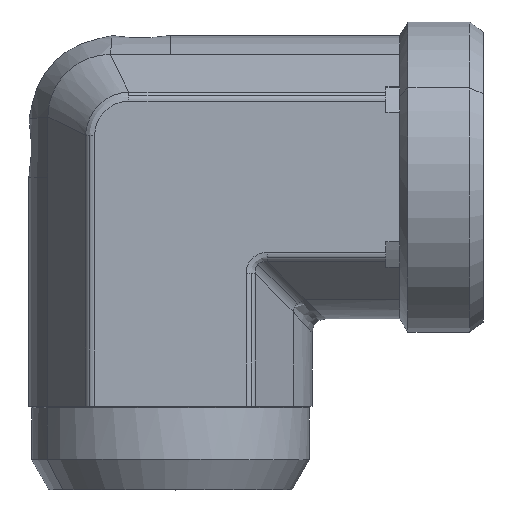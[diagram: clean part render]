
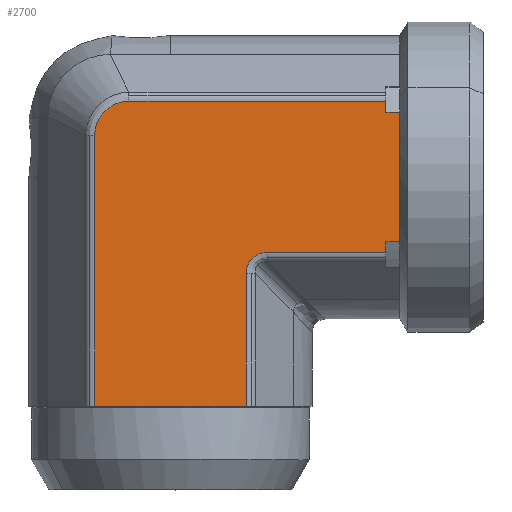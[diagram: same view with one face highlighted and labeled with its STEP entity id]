
A CAD part, top view. The second image highlights one B-rep face of the part: STEP entity #2700.
In plain terms, the highlighted planar face has unit normal (0, 0, 1) as drawn and (0, -1, 0) by its records, which use the part's own axes.
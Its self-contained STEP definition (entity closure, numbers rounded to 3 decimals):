
#361=CARTESIAN_POINT('',(9.429,-20.375,10.897));
#362=VERTEX_POINT('',#361);
#370=CARTESIAN_POINT('',(28.5,-20.375,10.897));
#371=VERTEX_POINT('',#370);
#372=CARTESIAN_POINT('',(9.429,-20.375,10.897));
#373=DIRECTION('',(1.0,0.0,0.0));
#374=VECTOR('',#373,19.071);
#375=LINE('',#372,#374);
#376=EDGE_CURVE('',#362,#371,#375,.T.);
#485=CARTESIAN_POINT('',(-15.397,-20.375,-5.976));
#486=VERTEX_POINT('',#485);
#494=CARTESIAN_POINT('',(-15.397,-20.375,31.));
#495=VERTEX_POINT('',#494);
#496=CARTESIAN_POINT('',(-15.397,-20.375,-5.976));
#497=DIRECTION('',(0.0,0.0,1.0));
#498=VECTOR('',#497,36.976);
#499=LINE('',#496,#498);
#500=EDGE_CURVE('',#486,#495,#499,.T.);
#735=CARTESIAN_POINT('',(-4.5,-20.375,33.0));
#736=VERTEX_POINT('',#735);
#1657=CARTESIAN_POINT('',(28.5,-20.375,-10.897));
#1658=VERTEX_POINT('',#1657);
#1659=CARTESIAN_POINT('',(28.5,-20.375,-10.897));
#1660=DIRECTION('',(0.0,0.0,1.0));
#1661=VECTOR('',#1660,21.795);
#1662=LINE('',#1659,#1661);
#1663=EDGE_CURVE('',#1658,#371,#1662,.T.);
#2208=CARTESIAN_POINT('',(6.397,-20.375,31.));
#2209=VERTEX_POINT('',#2208);
#2210=CARTESIAN_POINT('',(4.831,-20.375,31.));
#2211=VERTEX_POINT('',#2210);
#2212=CARTESIAN_POINT('',(6.397,-20.375,31.));
#2213=DIRECTION('',(-1.0,0.0,0.0));
#2214=VECTOR('',#2213,1.566);
#2215=LINE('',#2212,#2214);
#2216=EDGE_CURVE('',#2209,#2211,#2215,.T.);
#2265=CARTESIAN_POINT('',(-13.831,-20.375,31.));
#2266=VERTEX_POINT('',#2265);
#2267=CARTESIAN_POINT('',(-13.831,-20.375,31.));
#2268=DIRECTION('',(-1.0,0.0,0.0));
#2269=VECTOR('',#2268,1.566);
#2270=LINE('',#2267,#2269);
#2271=EDGE_CURVE('',#2266,#495,#2270,.T.);
#2370=CARTESIAN_POINT('',(4.831,-20.375,33.0));
#2371=VERTEX_POINT('',#2370);
#2372=CARTESIAN_POINT('',(4.831,-20.375,31.));
#2373=DIRECTION('',(0.0,0.0,1.0));
#2374=VECTOR('',#2373,2.);
#2375=LINE('',#2372,#2374);
#2376=EDGE_CURVE('',#2211,#2371,#2375,.T.);
#2404=CARTESIAN_POINT('',(-13.831,-20.375,33.0));
#2405=VERTEX_POINT('',#2404);
#2406=CARTESIAN_POINT('',(-13.831,-20.375,33.0));
#2407=DIRECTION('',(0.0,0.0,-1.0));
#2408=VECTOR('',#2407,2.);
#2409=LINE('',#2406,#2408);
#2410=EDGE_CURVE('',#2405,#2266,#2409,.T.);
#2620=CARTESIAN_POINT('',(-4.5,-20.375,33.0));
#2621=DIRECTION('',(-1.0,0.0,0.0));
#2622=VECTOR('',#2621,9.331);
#2623=LINE('',#2620,#2622);
#2624=EDGE_CURVE('',#736,#2405,#2623,.T.);
#2643=CARTESIAN_POINT('',(-4.5,-20.375,-3.175));
#2644=DIRECTION('',(0.0,-1.0,0.0));
#2645=DIRECTION('',(0.0,0.0,-1.0));
#2646=AXIS2_PLACEMENT_3D('',#2643,#2644,#2645);
#2647=PLANE('',#2646);
#2648=ORIENTED_EDGE('',*,*,#2410,.T.);
#2649=ORIENTED_EDGE('',*,*,#2271,.T.);
#2650=ORIENTED_EDGE('',*,*,#500,.F.);
#2651=CARTESIAN_POINT('',(-10.476,-20.375,-10.897));
#2652=VERTEX_POINT('',#2651);
#2653=CARTESIAN_POINT('',(-15.397,-20.375,-5.976));
#2654=CARTESIAN_POINT('',(-15.397,-20.375,-6.296));
#2655=CARTESIAN_POINT('',(-15.365,-20.375,-6.619));
#2656=CARTESIAN_POINT('',(-15.2,-20.375,-7.443));
#2657=CARTESIAN_POINT('',(-15.019,-20.375,-7.929));
#2658=CARTESIAN_POINT('',(-14.359,-20.375,-9.1));
#2659=CARTESIAN_POINT('',(-13.773,-20.375,-9.713));
#2660=CARTESIAN_POINT('',(-12.293,-20.375,-10.637));
#2661=CARTESIAN_POINT('',(-11.385,-20.375,-10.897));
#2662=CARTESIAN_POINT('',(-10.476,-20.375,-10.897));
#2663=B_SPLINE_CURVE_WITH_KNOTS('',3,(#2653,#2654,#2655,#2656,#2657,#2658,#2659,#2660,#2661,#2662),.UNSPECIFIED.,.F.,.U.,(4,2,2,2,4),(-7.686,-6.725,-5.188,-2.729,0.0),.UNSPECIFIED.);
#2664=EDGE_CURVE('',#2652,#486,#2663,.F.);
#2665=ORIENTED_EDGE('',*,*,#2664,.F.);
#2666=CARTESIAN_POINT('',(28.5,-20.375,-10.897));
#2667=DIRECTION('',(-1.0,0.0,0.0));
#2668=VECTOR('',#2667,38.976);
#2669=LINE('',#2666,#2668);
#2670=EDGE_CURVE('',#1658,#2652,#2669,.T.);
#2671=ORIENTED_EDGE('',*,*,#2670,.F.);
#2672=ORIENTED_EDGE('',*,*,#1663,.T.);
#2673=ORIENTED_EDGE('',*,*,#376,.F.);
#2674=CARTESIAN_POINT('',(6.397,-20.375,13.929));
#2675=VERTEX_POINT('',#2674);
#2676=CARTESIAN_POINT('',(10.439,-20.375,14.939));
#2677=DIRECTION('',(0.,-1.,0.));
#2678=DIRECTION('',(-0.707,0.,-0.707));
#2679=AXIS2_PLACEMENT_3D('',#2676,#2677,#2678);
#2680=ELLIPSE('',#2679,4.518,3.5);
#2681=EDGE_CURVE('',#2675,#362,#2680,.T.);
#2682=ORIENTED_EDGE('',*,*,#2681,.F.);
#2683=CARTESIAN_POINT('',(6.397,-20.375,31.));
#2684=DIRECTION('',(0.0,0.0,-1.0));
#2685=VECTOR('',#2684,17.071);
#2686=LINE('',#2683,#2685);
#2687=EDGE_CURVE('',#2209,#2675,#2686,.T.);
#2688=ORIENTED_EDGE('',*,*,#2687,.F.);
#2689=ORIENTED_EDGE('',*,*,#2216,.T.);
#2690=ORIENTED_EDGE('',*,*,#2376,.T.);
#2691=CARTESIAN_POINT('',(4.831,-20.375,33.0));
#2692=DIRECTION('',(-1.0,0.0,0.0));
#2693=VECTOR('',#2692,9.331);
#2694=LINE('',#2691,#2693);
#2695=EDGE_CURVE('',#2371,#736,#2694,.T.);
#2696=ORIENTED_EDGE('',*,*,#2695,.T.);
#2697=ORIENTED_EDGE('',*,*,#2624,.T.);
#2698=EDGE_LOOP('',(#2648,#2649,#2650,#2665,#2671,#2672,#2673,#2682,#2688,#2689,#2690,#2696,#2697));
#2699=FACE_OUTER_BOUND('',#2698,.T.);
#2700=ADVANCED_FACE('',(#2699),#2647,.T.);
